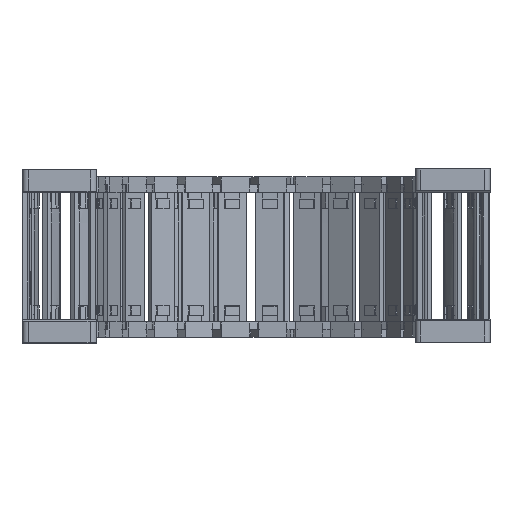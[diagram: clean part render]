
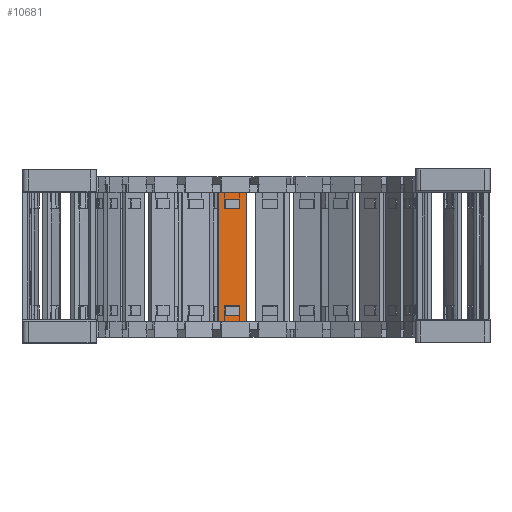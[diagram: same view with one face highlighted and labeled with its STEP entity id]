
A CAD part, top view. The second image highlights one B-rep face of the part: STEP entity #10681.
In plain terms, the highlighted planar face has unit normal (0.156, 0, 0.988).
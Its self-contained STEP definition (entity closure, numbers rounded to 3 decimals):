
#10681=ADVANCED_FACE('',(#45934,#45935,#45936),#15938,.F.);
#15938=PLANE('',#126792);
#24783=LINE('',#182267,#37399);
#24837=LINE('',#182426,#37453);
#24902=LINE('',#182786,#37518);
#24903=LINE('',#182788,#37519);
#24907=LINE('',#182796,#37523);
#25000=LINE('',#183097,#37616);
#25034=LINE('',#183207,#37650);
#25083=LINE('',#183531,#37699);
#25087=LINE('',#183543,#37703);
#25098=LINE('',#183568,#37714);
#25102=LINE('',#183575,#37718);
#25104=LINE('',#183579,#37720);
#25109=LINE('',#183609,#37725);
#25113=LINE('',#183619,#37729);
#25118=LINE('',#183651,#37734);
#25119=LINE('',#183652,#37735);
#25120=LINE('',#183653,#37736);
#25121=LINE('',#183655,#37737);
#37399=VECTOR('',#143806,1.);
#37453=VECTOR('',#143896,1.);
#37518=VECTOR('',#144113,1.);
#37519=VECTOR('',#144116,1.);
#37523=VECTOR('',#144122,1.);
#37616=VECTOR('',#144331,1.);
#37650=VECTOR('',#144389,1.);
#37699=VECTOR('',#144572,1.);
#37703=VECTOR('',#144582,1.);
#37714=VECTOR('',#144603,1.);
#37718=VECTOR('',#144609,1.);
#37720=VECTOR('',#144613,1.);
#37725=VECTOR('',#144626,1.);
#37729=VECTOR('',#144636,1.);
#37734=VECTOR('',#144655,1.);
#37735=VECTOR('',#144656,1.);
#37736=VECTOR('',#144657,1.);
#37737=VECTOR('',#144658,1.);
#45934=FACE_BOUND('',#48635,.T.);
#45935=FACE_BOUND('',#48636,.T.);
#45936=FACE_BOUND('',#48637,.T.);
#48635=EDGE_LOOP('',(#66150,#66151,#66152,#66153,#66154,#66155));
#48636=EDGE_LOOP('',(#66156,#66157,#66158,#66159,#66160,#66161));
#48637=EDGE_LOOP('',(#66162,#66163,#66164,#66165,#66166,#66167));
#66150=ORIENTED_EDGE('',*,*,#108678,.T.);
#66151=ORIENTED_EDGE('',*,*,#108626,.F.);
#66152=ORIENTED_EDGE('',*,*,#108493,.F.);
#66153=ORIENTED_EDGE('',*,*,#108650,.F.);
#66154=ORIENTED_EDGE('',*,*,#108183,.F.);
#66155=ORIENTED_EDGE('',*,*,#108360,.F.);
#66156=ORIENTED_EDGE('',*,*,#108679,.F.);
#66157=ORIENTED_EDGE('',*,*,#108660,.T.);
#66158=ORIENTED_EDGE('',*,*,#108648,.T.);
#66159=ORIENTED_EDGE('',*,*,#108632,.F.);
#66160=ORIENTED_EDGE('',*,*,#108535,.F.);
#66161=ORIENTED_EDGE('',*,*,#108665,.F.);
#66162=ORIENTED_EDGE('',*,*,#108361,.F.);
#66163=ORIENTED_EDGE('',*,*,#108644,.T.);
#66164=ORIENTED_EDGE('',*,*,#108680,.T.);
#66165=ORIENTED_EDGE('',*,*,#108681,.F.);
#66166=ORIENTED_EDGE('',*,*,#108365,.F.);
#66167=ORIENTED_EDGE('',*,*,#108249,.F.);
#93739=VERTEX_POINT('',#182266);
#93740=VERTEX_POINT('',#182268);
#93766=VERTEX_POINT('',#182350);
#93792=VERTEX_POINT('',#182413);
#93857=VERTEX_POINT('',#182785);
#93858=VERTEX_POINT('',#182789);
#93861=VERTEX_POINT('',#182797);
#93948=VERTEX_POINT('',#183096);
#93949=VERTEX_POINT('',#183098);
#93969=VERTEX_POINT('',#183169);
#93983=VERTEX_POINT('',#183199);
#94035=VERTEX_POINT('',#183532);
#94040=VERTEX_POINT('',#183544);
#94048=VERTEX_POINT('',#183567);
#94051=VERTEX_POINT('',#183576);
#94057=VERTEX_POINT('',#183610);
#94059=VERTEX_POINT('',#183618);
#94064=VERTEX_POINT('',#183654);
#108183=EDGE_CURVE('',#93739,#93740,#24783,.T.);
#108249=EDGE_CURVE('',#93792,#93766,#24837,.T.);
#108360=EDGE_CURVE('',#93857,#93739,#24902,.T.);
#108361=EDGE_CURVE('',#93858,#93792,#24903,.T.);
#108365=EDGE_CURVE('',#93766,#93861,#24907,.T.);
#108493=EDGE_CURVE('',#93948,#93949,#25000,.T.);
#108535=EDGE_CURVE('',#93969,#93983,#25034,.T.);
#108626=EDGE_CURVE('',#93949,#94035,#25083,.T.);
#108632=EDGE_CURVE('',#93983,#94040,#25087,.T.);
#108644=EDGE_CURVE('',#93858,#94048,#25098,.T.);
#108648=EDGE_CURVE('',#94051,#94040,#25102,.T.);
#108650=EDGE_CURVE('',#93740,#93948,#25104,.T.);
#108660=EDGE_CURVE('',#94057,#94051,#25109,.T.);
#108665=EDGE_CURVE('',#94059,#93969,#25113,.T.);
#108678=EDGE_CURVE('',#93857,#94035,#25118,.T.);
#108679=EDGE_CURVE('',#94057,#94059,#25119,.T.);
#108680=EDGE_CURVE('',#94048,#94064,#25120,.T.);
#108681=EDGE_CURVE('',#93861,#94064,#25121,.T.);
#126792=AXIS2_PLACEMENT_3D('',#183656,#144659,#144660);
#143806=DIRECTION('',(0.988,0.,-0.156));
#143896=DIRECTION('',(-0.988,0.,0.156));
#144113=DIRECTION('',(0.988,0.,-0.156));
#144116=DIRECTION('',(-0.988,0.,0.156));
#144122=DIRECTION('',(-0.988,0.,0.156));
#144331=DIRECTION('',(-0.988,0.,0.156));
#144389=DIRECTION('',(0.988,0.,-0.156));
#144572=DIRECTION('',(-0.988,0.,0.156));
#144582=DIRECTION('',(0.988,0.,-0.156));
#144603=DIRECTION('',(0.,-1.,0.));
#144609=DIRECTION('',(0.,-1.,0.));
#144613=DIRECTION('',(0.,-1.,0.));
#144626=DIRECTION('',(0.988,0.,-0.156));
#144636=DIRECTION('',(0.988,0.,-0.156));
#144655=DIRECTION('',(0.,-1.,0.));
#144656=DIRECTION('',(0.,-1.,0.));
#144657=DIRECTION('',(-0.988,0.,0.156));
#144658=DIRECTION('',(0.,-1.,0.));
#144659=DIRECTION('',(-0.156,0.,-0.988));
#144660=DIRECTION('',(0.988,0.,-0.156));
#182266=CARTESIAN_POINT('',(410.712,234.434,675.656));
#182267=CARTESIAN_POINT('',(410.38,234.434,675.709));
#182268=CARTESIAN_POINT('',(420.652,234.434,674.082));
#182350=CARTESIAN_POINT('',(412.408,231.822,675.387));
#182413=CARTESIAN_POINT('',(418.032,231.822,674.497));
#182426=CARTESIAN_POINT('',(418.204,231.822,674.469));
#182785=CARTESIAN_POINT('',(409.788,234.434,675.802));
#182786=CARTESIAN_POINT('',(410.38,234.434,675.709));
#182788=CARTESIAN_POINT('',(418.204,231.822,674.469));
#182789=CARTESIAN_POINT('',(418.204,231.822,674.469));
#182796=CARTESIAN_POINT('',(418.204,231.822,674.469));
#182797=CARTESIAN_POINT('',(412.236,231.822,675.415));
#183096=CARTESIAN_POINT('',(420.652,183.934,674.082));
#183097=CARTESIAN_POINT('',(410.38,183.934,675.709));
#183098=CARTESIAN_POINT('',(410.712,183.934,675.656));
#183169=CARTESIAN_POINT('',(412.408,186.545,675.387));
#183199=CARTESIAN_POINT('',(418.032,186.545,674.497));
#183207=CARTESIAN_POINT('',(418.204,186.545,674.469));
#183531=CARTESIAN_POINT('',(410.38,183.934,675.709));
#183532=CARTESIAN_POINT('',(409.788,183.934,675.802));
#183543=CARTESIAN_POINT('',(418.204,186.545,674.469));
#183544=CARTESIAN_POINT('',(418.204,186.545,674.469));
#183567=CARTESIAN_POINT('',(418.204,228.15,674.469));
#183568=CARTESIAN_POINT('',(418.204,246.919,674.469));
#183575=CARTESIAN_POINT('',(418.204,171.448,674.469));
#183576=CARTESIAN_POINT('',(418.204,190.218,674.469));
#183579=CARTESIAN_POINT('',(420.652,166.448,674.082));
#183609=CARTESIAN_POINT('',(418.204,190.218,674.469));
#183610=CARTESIAN_POINT('',(412.236,190.218,675.415));
#183618=CARTESIAN_POINT('',(412.236,186.545,675.415));
#183619=CARTESIAN_POINT('',(418.204,186.545,674.469));
#183651=CARTESIAN_POINT('',(409.788,166.448,675.802));
#183652=CARTESIAN_POINT('',(412.236,171.448,675.415));
#183653=CARTESIAN_POINT('',(418.204,228.15,674.469));
#183654=CARTESIAN_POINT('',(412.236,228.15,675.415));
#183655=CARTESIAN_POINT('',(412.236,246.919,675.415));
#183656=CARTESIAN_POINT('',(408.327,166.448,676.034));
